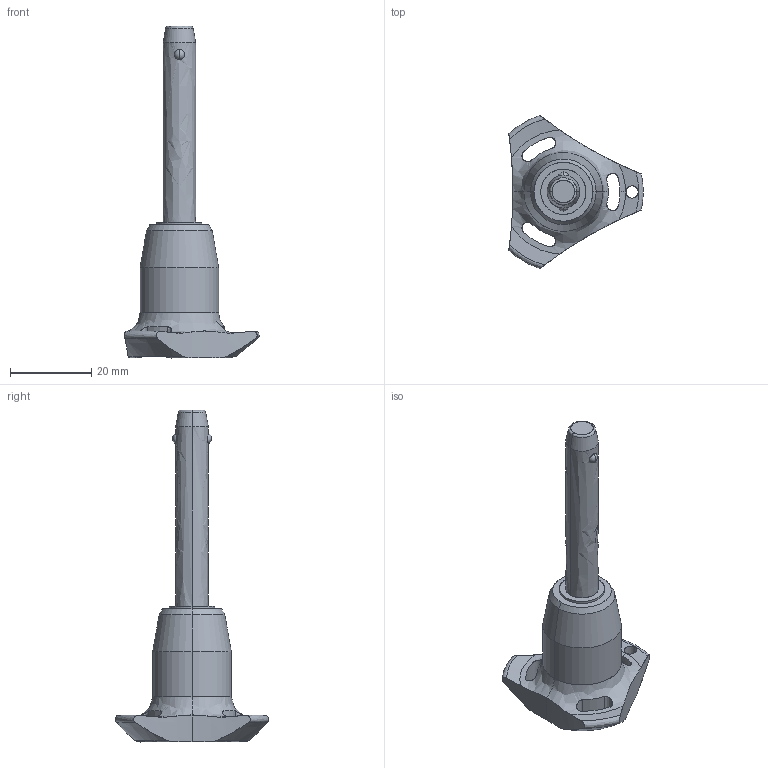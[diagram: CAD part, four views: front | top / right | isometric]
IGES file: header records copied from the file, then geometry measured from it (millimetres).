
Start section: SolidWorks IGES file using analytic representation for surfaces
Global section: file name: C:\Users\ianosborn\Desktop\QR1724_v2\QR1724_v2_20251112_IGES\QR1724.M08-040-S.igs; native system: SolidWorks 2019; preprocessor: SolidWorks 2019; author: IanOsborn; date: 251112.124936; units: millimetre
Bounding box: 33 x 37.51 x 81.5 mm (x, y, z)
Surface area: 5059.9 mm2 (no closed solid volume)
Topology: 0 solids, 0 shells, 65 faces, 1274 edges, 1270 vertices
Faces by surface type: revolution 50, bspline 15
